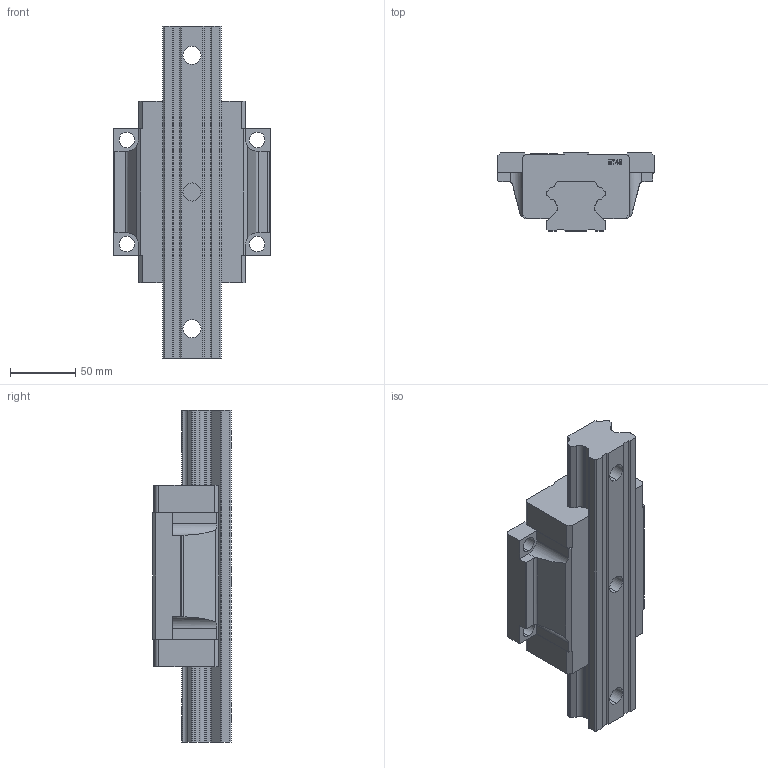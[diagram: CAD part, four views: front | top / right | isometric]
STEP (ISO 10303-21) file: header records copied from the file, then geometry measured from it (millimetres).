
FILE_DESCRIPTION (( 'STEP AP214' ), '1' );
FILE_NAME ('7.1006 Lineaarikelkka HTW45CC.STEP', '2026-03-11T11:03:01', ( '' ), ( '' ), 'SwSTEP 2.0', 'SolidWorks 2025', '' );
FILE_SCHEMA (( 'AUTOMOTIVE_DESIGN' ));
Length unit declared in the file: millimetre
Products named in the file (3): HTR45; HTW45; 7.1006 Lineaarikelkka HTW45CC
Assembly tree (2 placements, depth 2):
  7.1006 Lineaarikelkka HTW45CC
    HTW45
    HTR45
Bounding box: 120 x 60 x 255 mm (x, y, z)
Volume: 845967.3 mm3; surface area: 112794.4 mm2
Topology: 2 solids, 2 shells, 745 faces, 2109 edges, 1406 vertices
Faces by surface type: plane 666, cylinder 58, bspline 21
Entity records: 33638 total; most frequent: CARTESIAN_POINT 6014, ORIENTED_EDGE 4218, DIRECTION 3625, EDGE_CURVE 2109, VECTOR 1943, LINE 1943, VERTEX_POINT 1406, AXIS2_PLACEMENT_3D 841
